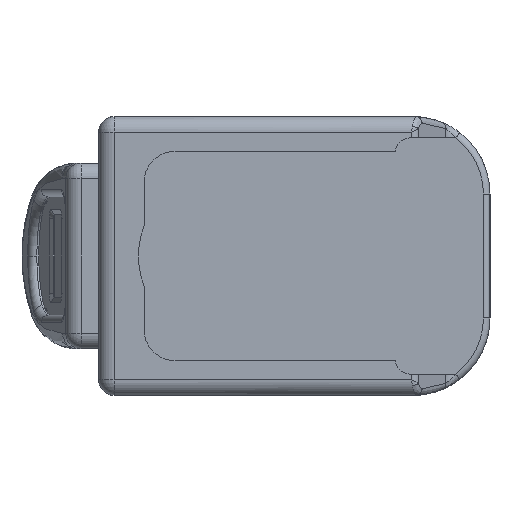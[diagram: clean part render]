
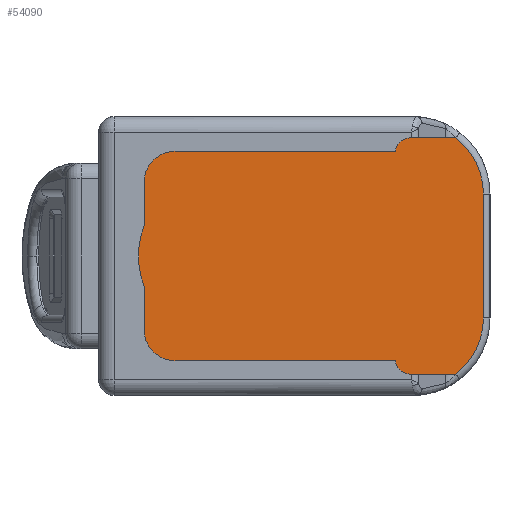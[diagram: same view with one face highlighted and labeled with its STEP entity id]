
A CAD part, left-side view. The second image highlights one B-rep face of the part: STEP entity #54090.
In plain terms, the highlighted planar face has unit normal (-1, 0, 0).
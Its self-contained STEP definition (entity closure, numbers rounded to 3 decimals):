
#8 = DIRECTION ( 'NONE',  ( -1., 0., 0. ) ) ;
#202 = AXIS2_PLACEMENT_3D ( 'NONE', #54947, #97202, #56264 ) ;
#387 = AXIS2_PLACEMENT_3D ( 'NONE', #119860, #76316, #96791 ) ;
#1007 = EDGE_CURVE ( 'NONE', #52553, #121433, #102772, .T. ) ;
#1135 = FACE_OUTER_BOUND ( 'NONE', #91775, .T. ) ;
#2168 = ORIENTED_EDGE ( 'NONE', *, *, #80417, .F. ) ;
#3184 = VECTOR ( 'NONE', #128479, 1000. ) ;
#7784 = VERTEX_POINT ( 'NONE', #43004 ) ;
#8432 = EDGE_CURVE ( 'NONE', #75083, #71924, #65859, .T. ) ;
#9730 = CARTESIAN_POINT ( 'NONE',  ( -329.6, -66.8, 27. ) ) ;
#9944 = CARTESIAN_POINT ( 'NONE',  ( -329.6, -59.648, 30.5 ) ) ;
#11503 = EDGE_CURVE ( 'NONE', #98448, #57979, #83855, .T. ) ;
#12107 = CIRCLE ( 'NONE', #60090, 18.3 ) ;
#12974 = EDGE_CURVE ( 'NONE', #71924, #38418, #82993, .T. ) ;
#13626 = EDGE_CURVE ( 'NONE', #21790, #57979, #63009, .T. ) ;
#14250 = ORIENTED_EDGE ( 'NONE', *, *, #33498, .F. ) ;
#15019 = DIRECTION ( 'NONE',  ( 0., 0., -1. ) ) ;
#19232 = CARTESIAN_POINT ( 'NONE',  ( -329.6, 20.8, -7.901 ) ) ;
#19307 = VECTOR ( 'NONE', #30150, 1000. ) ;
#20008 = DIRECTION ( 'NONE',  ( 0., -1., 0. ) ) ;
#20834 = VECTOR ( 'NONE', #67980, 1000. ) ;
#21512 = ORIENTED_EDGE ( 'NONE', *, *, #8432, .T. ) ;
#21790 = VERTEX_POINT ( 'NONE', #71090 ) ;
#21974 = CARTESIAN_POINT ( 'NONE',  ( -329.6, 20.8, 30.5 ) ) ;
#29526 = ORIENTED_EDGE ( 'NONE', *, *, #13626, .F. ) ;
#29705 = DIRECTION ( 'NONE',  ( 0., -1., 0. ) ) ;
#30150 = DIRECTION ( 'NONE',  ( 0., 0., 1. ) ) ;
#30216 = VECTOR ( 'NONE', #85216, 1000. ) ;
#33498 = EDGE_CURVE ( 'NONE', #102390, #131901, #40997, .T. ) ;
#34402 = AXIS2_PLACEMENT_3D ( 'NONE', #94527, #104077, #29705 ) ;
#38418 = VERTEX_POINT ( 'NONE', #126144 ) ;
#40997 = CIRCLE ( 'NONE', #34402, 22.25 ) ;
#42096 = DIRECTION ( 'NONE',  ( 0., 0., -1. ) ) ;
#42775 = DIRECTION ( 'NONE',  ( -1., 0., 0. ) ) ;
#43004 = CARTESIAN_POINT ( 'NONE',  ( -329.6, -66.8, 16. ) ) ;
#47527 = ORIENTED_EDGE ( 'NONE', *, *, #1007, .F. ) ;
#48312 = CARTESIAN_POINT ( 'NONE',  ( -329.6, -59.648, -30.512 ) ) ;
#48453 = CARTESIAN_POINT ( 'NONE',  ( -329.6, 20.8, 7.901 ) ) ;
#50611 = CARTESIAN_POINT ( 'NONE',  ( -329.6, -59.648, -30.5 ) ) ;
#52540 = CIRCLE ( 'NONE', #78716, 9.75 ) ;
#52553 = VERTEX_POINT ( 'NONE', #60933 ) ;
#53644 = EDGE_CURVE ( 'NONE', #7784, #98448, #12107, .T. ) ;
#54090 = ADVANCED_FACE ( 'NONE', ( #1135 ), #94626, .T. ) ;
#54947 = CARTESIAN_POINT ( 'NONE',  ( -329.6, -48.5, -16. ) ) ;
#56095 = CARTESIAN_POINT ( 'NONE',  ( -329.6, 20.8, -20.75 ) ) ;
#56264 = DIRECTION ( 'NONE',  ( 0., 0., -1. ) ) ;
#57979 = VERTEX_POINT ( 'NONE', #9944 ) ;
#58766 = ORIENTED_EDGE ( 'NONE', *, *, #53644, .T. ) ;
#59252 = LINE ( 'NONE', #111034, #109318 ) ;
#60090 = AXIS2_PLACEMENT_3D ( 'NONE', #97646, #108508, #15019 ) ;
#60933 = CARTESIAN_POINT ( 'NONE',  ( -329.6, 11.05, -30.5 ) ) ;
#63009 = LINE ( 'NONE', #21974, #80961 ) ;
#64150 = CARTESIAN_POINT ( 'NONE',  ( -329.6, 20.8, 20.75 ) ) ;
#64158 = LINE ( 'NONE', #77053, #134943 ) ;
#64832 = DIRECTION ( 'NONE',  ( 0., 0., 1. ) ) ;
#65859 = LINE ( 'NONE', #95918, #3184 ) ;
#66754 = CARTESIAN_POINT ( 'NONE',  ( -329.6, -59.648, 27. ) ) ;
#67980 = DIRECTION ( 'NONE',  ( 0., -1., 0. ) ) ;
#68660 = CARTESIAN_POINT ( 'NONE',  ( -329.6, 20.8, -30.5 ) ) ;
#71090 = CARTESIAN_POINT ( 'NONE',  ( -329.6, 11.05, 30.5 ) ) ;
#71924 = VERTEX_POINT ( 'NONE', #48312 ) ;
#73306 = AXIS2_PLACEMENT_3D ( 'NONE', #97330, #42775, #42096 ) ;
#73463 = EDGE_CURVE ( 'NONE', #21790, #100976, #52540, .T. ) ;
#75083 = VERTEX_POINT ( 'NONE', #50611 ) ;
#76316 = DIRECTION ( 'NONE',  ( 1., 0., 0. ) ) ;
#77053 = CARTESIAN_POINT ( 'NONE',  ( -329.6, 20.8, -30.5 ) ) ;
#78453 = ORIENTED_EDGE ( 'NONE', *, *, #87441, .F. ) ;
#78594 = ORIENTED_EDGE ( 'NONE', *, *, #103049, .T. ) ;
#78716 = AXIS2_PLACEMENT_3D ( 'NONE', #84559, #8, #126078 ) ;
#80103 = CARTESIAN_POINT ( 'NONE',  ( -329.6, -59.648, 30.512 ) ) ;
#80417 = EDGE_CURVE ( 'NONE', #131901, #100976, #59252, .T. ) ;
#80961 = VECTOR ( 'NONE', #20008, 1000. ) ;
#82544 = ORIENTED_EDGE ( 'NONE', *, *, #11503, .T. ) ;
#82993 = CIRCLE ( 'NONE', #202, 18.3 ) ;
#83855 = LINE ( 'NONE', #66754, #30216 ) ;
#84559 = CARTESIAN_POINT ( 'NONE',  ( -329.6, 11.05, 20.75 ) ) ;
#85216 = DIRECTION ( 'NONE',  ( 0., 0., -1. ) ) ;
#87441 = EDGE_CURVE ( 'NONE', #121433, #102390, #64158, .T. ) ;
#87886 = DIRECTION ( 'NONE',  ( 0., 0., 1. ) ) ;
#91775 = EDGE_LOOP ( 'NONE', ( #2168, #14250, #78453, #47527, #120622, #21512, #113949, #78594, #58766, #82544, #29526, #116261 ) ) ;
#94527 = CARTESIAN_POINT ( 'NONE',  ( -329.6, 0., 0. ) ) ;
#94626 = PLANE ( 'NONE',  #73306 ) ;
#95918 = CARTESIAN_POINT ( 'NONE',  ( -329.6, -59.648, 27. ) ) ;
#96791 = DIRECTION ( 'NONE',  ( 0., 0., 1. ) ) ;
#97202 = DIRECTION ( 'NONE',  ( -1., 0., 0. ) ) ;
#97330 = CARTESIAN_POINT ( 'NONE',  ( -329.6, -68.5, 27. ) ) ;
#97646 = CARTESIAN_POINT ( 'NONE',  ( -329.6, -48.5, 16. ) ) ;
#98448 = VERTEX_POINT ( 'NONE', #80103 ) ;
#100976 = VERTEX_POINT ( 'NONE', #64150 ) ;
#102390 = VERTEX_POINT ( 'NONE', #19232 ) ;
#102772 = CIRCLE ( 'NONE', #387, 9.75 ) ;
#103049 = EDGE_CURVE ( 'NONE', #38418, #7784, #124248, .T. ) ;
#104077 = DIRECTION ( 'NONE',  ( 1., 0., 0. ) ) ;
#108508 = DIRECTION ( 'NONE',  ( -1., 0., 0. ) ) ;
#109318 = VECTOR ( 'NONE', #87886, 1000. ) ;
#111034 = CARTESIAN_POINT ( 'NONE',  ( -329.6, 20.8, -30.5 ) ) ;
#113949 = ORIENTED_EDGE ( 'NONE', *, *, #12974, .T. ) ;
#116261 = ORIENTED_EDGE ( 'NONE', *, *, #73463, .T. ) ;
#119860 = CARTESIAN_POINT ( 'NONE',  ( -329.6, 11.05, -20.75 ) ) ;
#120622 = ORIENTED_EDGE ( 'NONE', *, *, #125707, .T. ) ;
#121433 = VERTEX_POINT ( 'NONE', #56095 ) ;
#124248 = LINE ( 'NONE', #9730, #19307 ) ;
#125707 = EDGE_CURVE ( 'NONE', #52553, #75083, #130640, .T. ) ;
#126078 = DIRECTION ( 'NONE',  ( 0., 0., -1. ) ) ;
#126144 = CARTESIAN_POINT ( 'NONE',  ( -329.6, -66.8, -16. ) ) ;
#128479 = DIRECTION ( 'NONE',  ( 0., 0., -1. ) ) ;
#130640 = LINE ( 'NONE', #68660, #20834 ) ;
#131901 = VERTEX_POINT ( 'NONE', #48453 ) ;
#134943 = VECTOR ( 'NONE', #64832, 1000. ) ;
